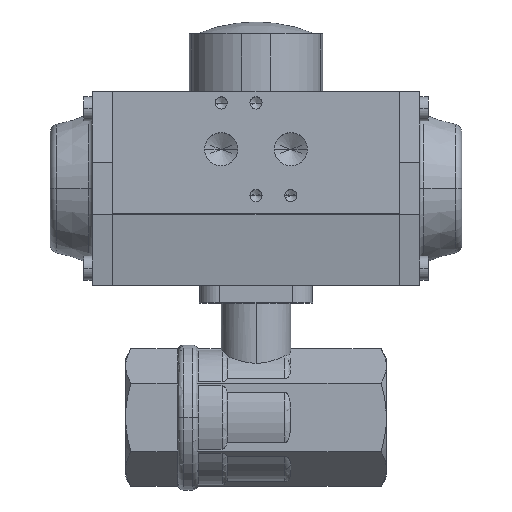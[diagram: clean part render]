
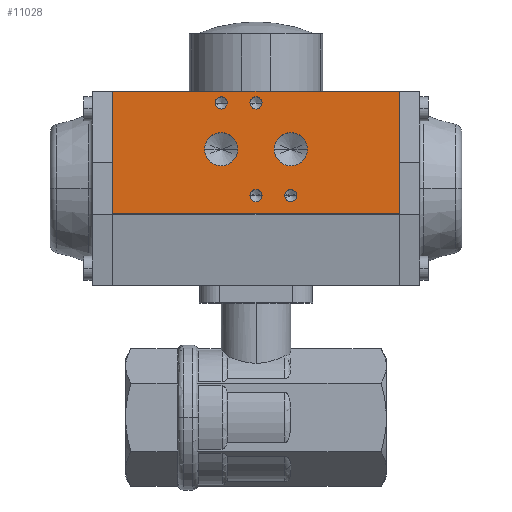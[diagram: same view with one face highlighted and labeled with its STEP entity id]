
A CAD part, top view. The second image highlights one B-rep face of the part: STEP entity #11028.
In plain terms, the highlighted planar face has unit normal (0, 0, 1) as drawn and (1, 0, 0) by its records, which use the part's own axes.
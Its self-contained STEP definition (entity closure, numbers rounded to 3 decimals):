
#2263 = CARTESIAN_POINT ( 'NONE',  ( 36., 29.5, 12. ) ) ;
#2264 = DIRECTION ( 'NONE',  ( 1., 0., 0. ) ) ;
#2265 = DIRECTION ( 'NONE',  ( 0., 0., -1. ) ) ;
#2281 = CARTESIAN_POINT ( 'NONE',  ( 36., -2.5, -12. ) ) ;
#2282 = DIRECTION ( 'NONE',  ( 1., 0., 0. ) ) ;
#2283 = DIRECTION ( 'NONE',  ( 0., 0., -1. ) ) ;
#2299 = CARTESIAN_POINT ( 'NONE',  ( 36., -2.5, 0. ) ) ;
#2300 = DIRECTION ( 'NONE',  ( 1., 0., 0. ) ) ;
#2301 = DIRECTION ( 'NONE',  ( 0., 0., -1. ) ) ;
#2317 = CARTESIAN_POINT ( 'NONE',  ( 36., 29.5, 0. ) ) ;
#2318 = DIRECTION ( 'NONE',  ( 1., 0., 0. ) ) ;
#2319 = DIRECTION ( 'NONE',  ( 0., 0., -1. ) ) ;
#2335 = CARTESIAN_POINT ( 'NONE',  ( 36., 13.5, -12. ) ) ;
#2336 = DIRECTION ( 'NONE',  ( 1., 0., 0. ) ) ;
#2337 = DIRECTION ( 'NONE',  ( 0., 0., -1. ) ) ;
#2353 = CARTESIAN_POINT ( 'NONE',  ( 36., 13.5, 12. ) ) ;
#2354 = DIRECTION ( 'NONE',  ( 1., 0., 0. ) ) ;
#2355 = DIRECTION ( 'NONE',  ( 0., 0., -1. ) ) ;
#2668 = LINE ( 'NONE', #2669, #7737 ) ;
#2669 = CARTESIAN_POINT ( 'NONE',  ( 36., 33.5, -49.5 ) ) ;
#2670 = DIRECTION ( 'NONE',  ( 0., 0., 1. ) ) ;
#2673 = CARTESIAN_POINT ( 'NONE',  ( 36., 29.5, 12. ) ) ;
#2674 = DIRECTION ( 'NONE',  ( 1., 0., 0. ) ) ;
#2675 = DIRECTION ( 'NONE',  ( 0., 0., -1. ) ) ;
#2676 = CARTESIAN_POINT ( 'NONE',  ( 36., -2.5, -12. ) ) ;
#2677 = DIRECTION ( 'NONE',  ( 1., 0., 0. ) ) ;
#2678 = DIRECTION ( 'NONE',  ( 0., 0., -1. ) ) ;
#2679 = CARTESIAN_POINT ( 'NONE',  ( 36., -2.5, 0. ) ) ;
#2680 = DIRECTION ( 'NONE',  ( 1., 0., 0. ) ) ;
#2681 = DIRECTION ( 'NONE',  ( 0., 0., -1. ) ) ;
#2682 = CARTESIAN_POINT ( 'NONE',  ( 36., 29.5, 0. ) ) ;
#2683 = DIRECTION ( 'NONE',  ( 1., 0., 0. ) ) ;
#2684 = DIRECTION ( 'NONE',  ( 0., 0., -1. ) ) ;
#2685 = LINE ( 'NONE', #2686, #7780 ) ;
#2686 = CARTESIAN_POINT ( 'NONE',  ( 36., -8.5, 49.5 ) ) ;
#2687 = CARTESIAN_POINT ( 'NONE',  ( 36., 13.5, -12. ) ) ;
#2688 = DIRECTION ( 'NONE',  ( 1., 0., 0. ) ) ;
#2689 = DIRECTION ( 'NONE',  ( 0., 0., -1. ) ) ;
#2690 = LINE ( 'NONE', #2700, #7791 ) ;
#2691 = LINE ( 'NONE', #2697, #7747 ) ;
#2692 = CARTESIAN_POINT ( 'NONE',  ( 36., 13.5, 12. ) ) ;
#2693 = DIRECTION ( 'NONE',  ( 1., 0., 0. ) ) ;
#2694 = DIRECTION ( 'NONE',  ( 0., 0., -1. ) ) ;
#2696 = DIRECTION ( 'NONE',  ( 0., 1., 0. ) ) ;
#2697 = CARTESIAN_POINT ( 'NONE',  ( 36., -8.5, -49.5 ) ) ;
#2699 = DIRECTION ( 'NONE',  ( 0., 0., 1. ) ) ;
#2700 = CARTESIAN_POINT ( 'NONE',  ( 36., -8.5, -49.5 ) ) ;
#2701 = DIRECTION ( 'NONE',  ( 0., 1., 0. ) ) ;
#3115 = CARTESIAN_POINT ( 'NONE',  ( 36., -8.5, -49.5 ) ) ;
#3120 = CARTESIAN_POINT ( 'NONE',  ( 36., 33.5, -49.5 ) ) ;
#3121 = CARTESIAN_POINT ( 'NONE',  ( 36., 33.5, 49.5 ) ) ;
#3123 = CARTESIAN_POINT ( 'NONE',  ( 36., -8.5, 49.5 ) ) ;
#3620 = CARTESIAN_POINT ( 'NONE',  ( 36., -8.5, -49.5 ) ) ;
#3624 = FACE_BOUND ( 'NONE', #5786, .T. ) ;
#3627 = FACE_BOUND ( 'NONE', #5779, .T. ) ;
#3628 = FACE_BOUND ( 'NONE', #5780, .T. ) ;
#3629 = FACE_BOUND ( 'NONE', #5790, .T. ) ;
#3630 = FACE_OUTER_BOUND ( 'NONE', #5778, .T. ) ;
#3631 = FACE_BOUND ( 'NONE', #5783, .T. ) ;
#3632 = PLANE ( 'NONE',  #10832 ) ;
#3633 = FACE_BOUND ( 'NONE', #5781, .T. ) ;
#3636 = DIRECTION ( 'NONE',  ( 1., 0., 0. ) ) ;
#3637 = DIRECTION ( 'NONE',  ( 0., 0., -1. ) ) ;
#4282 = VERTEX_POINT ( 'NONE', #8744 ) ;
#4283 = VERTEX_POINT ( 'NONE', #8746 ) ;
#4287 = VERTEX_POINT ( 'NONE', #8753 ) ;
#4288 = VERTEX_POINT ( 'NONE', #8755 ) ;
#4292 = VERTEX_POINT ( 'NONE', #8762 ) ;
#4293 = VERTEX_POINT ( 'NONE', #8764 ) ;
#4297 = VERTEX_POINT ( 'NONE', #8772 ) ;
#4298 = VERTEX_POINT ( 'NONE', #8773 ) ;
#4302 = VERTEX_POINT ( 'NONE', #8781 ) ;
#4303 = VERTEX_POINT ( 'NONE', #8782 ) ;
#4307 = VERTEX_POINT ( 'NONE', #8790 ) ;
#4308 = VERTEX_POINT ( 'NONE', #8792 ) ;
#5778 = EDGE_LOOP ( 'NONE', ( #8046, #8047, #8045, #8049 ) ) ;
#5779 = EDGE_LOOP ( 'NONE', ( #8055, #8054 ) ) ;
#5780 = EDGE_LOOP ( 'NONE', ( #8063, #8062 ) ) ;
#5781 = EDGE_LOOP ( 'NONE', ( #8051, #8057 ) ) ;
#5783 = EDGE_LOOP ( 'NONE', ( #8059, #8058 ) ) ;
#5786 = EDGE_LOOP ( 'NONE', ( #8061, #8060 ) ) ;
#5790 = EDGE_LOOP ( 'NONE', ( #8052, #8053 ) ) ;
#6606 = EDGE_CURVE ( 'NONE', #4308, #4307, #7672, .T. ) ;
#6612 = EDGE_CURVE ( 'NONE', #4303, #4302, #7652, .T. ) ;
#6618 = EDGE_CURVE ( 'NONE', #4298, #4297, #7638, .T. ) ;
#6624 = EDGE_CURVE ( 'NONE', #4293, #4292, #7620, .T. ) ;
#6630 = EDGE_CURVE ( 'NONE', #4288, #4287, #7597, .T. ) ;
#6636 = EDGE_CURVE ( 'NONE', #4283, #4282, #7571, .T. ) ;
#6741 = EDGE_CURVE ( 'NONE', #8196, #8197, #2668, .T. ) ;
#6743 = EDGE_CURVE ( 'NONE', #4307, #4308, #7746, .T. ) ;
#6744 = EDGE_CURVE ( 'NONE', #4302, #4303, #7752, .T. ) ;
#6745 = EDGE_CURVE ( 'NONE', #4297, #4298, #7757, .T. ) ;
#6746 = EDGE_CURVE ( 'NONE', #4292, #4293, #7762, .T. ) ;
#6747 = EDGE_CURVE ( 'NONE', #4287, #4288, #7766, .T. ) ;
#6748 = EDGE_CURVE ( 'NONE', #4282, #4283, #7770, .T. ) ;
#6749 = EDGE_CURVE ( 'NONE', #8199, #8197, #2685, .T. ) ;
#6750 = EDGE_CURVE ( 'NONE', #8191, #8199, #2691, .T. ) ;
#6751 = EDGE_CURVE ( 'NONE', #8191, #8196, #2690, .T. ) ;
#7552 = AXIS2_PLACEMENT_3D ( 'NONE', #2353, #2354, #2355 ) ;
#7571 = CIRCLE ( 'NONE', #7552, 5.722 ) ;
#7592 = AXIS2_PLACEMENT_3D ( 'NONE', #2335, #2336, #2337 ) ;
#7597 = CIRCLE ( 'NONE', #7592, 5.722 ) ;
#7603 = AXIS2_PLACEMENT_3D ( 'NONE', #2317, #2318, #2319 ) ;
#7620 = CIRCLE ( 'NONE', #7603, 2.1 ) ;
#7629 = AXIS2_PLACEMENT_3D ( 'NONE', #2299, #2300, #2301 ) ;
#7638 = CIRCLE ( 'NONE', #7629, 2.1 ) ;
#7647 = AXIS2_PLACEMENT_3D ( 'NONE', #2281, #2282, #2283 ) ;
#7652 = CIRCLE ( 'NONE', #7647, 2.1 ) ;
#7664 = AXIS2_PLACEMENT_3D ( 'NONE', #2263, #2264, #2265 ) ;
#7672 = CIRCLE ( 'NONE', #7664, 2.1 ) ;
#7737 = VECTOR ( 'NONE', #2670, 1000. ) ;
#7746 = CIRCLE ( 'NONE', #7748, 2.1 ) ;
#7747 = VECTOR ( 'NONE', #2699, 1000. ) ;
#7748 = AXIS2_PLACEMENT_3D ( 'NONE', #2673, #2674, #2675 ) ;
#7752 = CIRCLE ( 'NONE', #7761, 2.1 ) ;
#7757 = CIRCLE ( 'NONE', #7769, 2.1 ) ;
#7761 = AXIS2_PLACEMENT_3D ( 'NONE', #2676, #2677, #2678 ) ;
#7762 = CIRCLE ( 'NONE', #7775, 2.1 ) ;
#7766 = CIRCLE ( 'NONE', #7779, 5.722 ) ;
#7769 = AXIS2_PLACEMENT_3D ( 'NONE', #2679, #2680, #2681 ) ;
#7770 = CIRCLE ( 'NONE', #7797, 5.722 ) ;
#7775 = AXIS2_PLACEMENT_3D ( 'NONE', #2682, #2683, #2684 ) ;
#7779 = AXIS2_PLACEMENT_3D ( 'NONE', #2687, #2688, #2689 ) ;
#7780 = VECTOR ( 'NONE', #2696, 1000. ) ;
#7791 = VECTOR ( 'NONE', #2701, 1000. ) ;
#7797 = AXIS2_PLACEMENT_3D ( 'NONE', #2692, #2693, #2694 ) ;
#8045 = ORIENTED_EDGE ( 'NONE', *, *, #6750, .F. ) ;
#8046 = ORIENTED_EDGE ( 'NONE', *, *, #6741, .T. ) ;
#8047 = ORIENTED_EDGE ( 'NONE', *, *, #6749, .F. ) ;
#8049 = ORIENTED_EDGE ( 'NONE', *, *, #6751, .T. ) ;
#8051 = ORIENTED_EDGE ( 'NONE', *, *, #6746, .F. ) ;
#8052 = ORIENTED_EDGE ( 'NONE', *, *, #6748, .F. ) ;
#8053 = ORIENTED_EDGE ( 'NONE', *, *, #6636, .F. ) ;
#8054 = ORIENTED_EDGE ( 'NONE', *, *, #6630, .F. ) ;
#8055 = ORIENTED_EDGE ( 'NONE', *, *, #6747, .F. ) ;
#8057 = ORIENTED_EDGE ( 'NONE', *, *, #6624, .F. ) ;
#8058 = ORIENTED_EDGE ( 'NONE', *, *, #6618, .F. ) ;
#8059 = ORIENTED_EDGE ( 'NONE', *, *, #6745, .F. ) ;
#8060 = ORIENTED_EDGE ( 'NONE', *, *, #6612, .F. ) ;
#8061 = ORIENTED_EDGE ( 'NONE', *, *, #6744, .F. ) ;
#8062 = ORIENTED_EDGE ( 'NONE', *, *, #6606, .F. ) ;
#8063 = ORIENTED_EDGE ( 'NONE', *, *, #6743, .F. ) ;
#8191 = VERTEX_POINT ( 'NONE', #3115 ) ;
#8196 = VERTEX_POINT ( 'NONE', #3120 ) ;
#8197 = VERTEX_POINT ( 'NONE', #3121 ) ;
#8199 = VERTEX_POINT ( 'NONE', #3123 ) ;
#8744 = CARTESIAN_POINT ( 'NONE',  ( 36., 13.5, 6.277 ) ) ;
#8746 = CARTESIAN_POINT ( 'NONE',  ( 36., 13.5, 17.722 ) ) ;
#8753 = CARTESIAN_POINT ( 'NONE',  ( 36., 13.5, -17.722 ) ) ;
#8755 = CARTESIAN_POINT ( 'NONE',  ( 36., 13.5, -6.277 ) ) ;
#8762 = CARTESIAN_POINT ( 'NONE',  ( 36., 29.5, -2.1 ) ) ;
#8764 = CARTESIAN_POINT ( 'NONE',  ( 36., 29.5, 2.1 ) ) ;
#8772 = CARTESIAN_POINT ( 'NONE',  ( 36., -2.5, -2.1 ) ) ;
#8773 = CARTESIAN_POINT ( 'NONE',  ( 36., -2.5, 2.1 ) ) ;
#8781 = CARTESIAN_POINT ( 'NONE',  ( 36., -2.5, -14.1 ) ) ;
#8782 = CARTESIAN_POINT ( 'NONE',  ( 36., -2.5, -9.9 ) ) ;
#8790 = CARTESIAN_POINT ( 'NONE',  ( 36., 29.5, 9.9 ) ) ;
#8792 = CARTESIAN_POINT ( 'NONE',  ( 36., 29.5, 14.1 ) ) ;
#10832 = AXIS2_PLACEMENT_3D ( 'NONE', #3620, #3636, #3637 ) ;
#11028 = ADVANCED_FACE ( 'NONE', ( #3628, #3624, #3631, #3633, #3627, #3629, #3630 ), #3632, .T. ) ;
